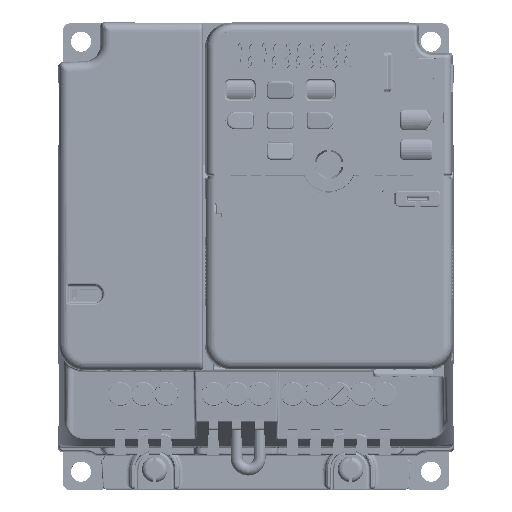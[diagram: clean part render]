
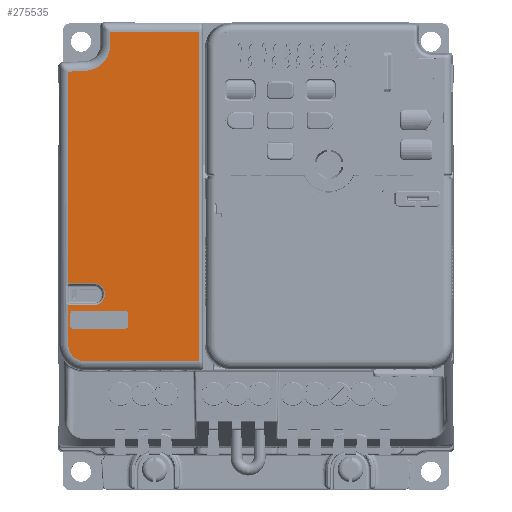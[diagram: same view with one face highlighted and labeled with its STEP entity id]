
A CAD part, top view. The second image highlights one B-rep face of the part: STEP entity #275535.
In plain terms, the highlighted planar face has unit normal (0, 0, 1).
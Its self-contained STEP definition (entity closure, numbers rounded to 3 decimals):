
#222149=DIRECTION('',(1.,0.,0.));
#222150=VECTOR('',#222149,31.378);
#222151=CARTESIAN_POINT('',(-47.,35.1,70.8));
#222152=LINE('',#222151,#222150);
#222168=DIRECTION('',(0.999,0.052,0.));
#222169=VECTOR('',#222168,4.873);
#222170=CARTESIAN_POINT('',(-51.5,114.525,70.8));
#222171=LINE('',#222170,#222169);
#222172=CARTESIAN_POINT('',(-47.,121.77,70.8));
#222173=DIRECTION('',(0.,0.,1.));
#222174=DIRECTION('',(0.052,-0.999,0.));
#222175=AXIS2_PLACEMENT_3D('',#222172,#222173,#222174);
#222177=CARTESIAN_POINT('',(-47.,39.6,70.8));
#222178=DIRECTION('',(0.,0.,-1.));
#222179=DIRECTION('',(0.,-1.,0.));
#222180=AXIS2_PLACEMENT_3D('',#222177,#222178,#222179);
#222182=CARTESIAN_POINT('',(-51.5,50.566,
70.8));
#222183=CARTESIAN_POINT('',(-51.453,50.542,
70.8));
#222184=CARTESIAN_POINT('',(-51.356,50.502,
70.8));
#222185=CARTESIAN_POINT('',(-51.201,50.465,
70.8));
#222186=CARTESIAN_POINT('',(-51.097,50.456,
70.8));
#222187=CARTESIAN_POINT('',(-51.044,50.456,
70.8));
#222189=CARTESIAN_POINT('',(-44.5,53.5,70.8));
#222190=DIRECTION('',(0.,0.,1.));
#222191=DIRECTION('',(0.,-1.,0.));
#222192=AXIS2_PLACEMENT_3D('',#222189,#222190,#222191);
#222194=CARTESIAN_POINT('',(-44.5,53.5,70.8));
#222195=DIRECTION('',(0.,0.,1.));
#222196=DIRECTION('',(0.058,0.998,0.));
#222197=AXIS2_PLACEMENT_3D('',#222194,#222195,#222196);
#222199=CARTESIAN_POINT('',(-51.044,56.544,
70.8));
#222200=CARTESIAN_POINT('',(-51.097,56.544,
70.8));
#222201=CARTESIAN_POINT('',(-51.202,56.535,
70.8));
#222202=CARTESIAN_POINT('',(-51.356,56.498,
70.8));
#222203=CARTESIAN_POINT('',(-51.453,56.458,
70.8));
#222204=CARTESIAN_POINT('',(-51.5,56.434,70.8));
#222206=CARTESIAN_POINT('',(-50.,45.,70.8));
#222207=DIRECTION('',(0.,0.,1.));
#222208=DIRECTION('',(-1.,0.,0.));
#222209=AXIS2_PLACEMENT_3D('',#222206,#222207,#222208);
#222211=CARTESIAN_POINT('',(-36.,45.,70.8));
#222212=DIRECTION('',(0.,0.,1.));
#222213=DIRECTION('',(0.,-1.,0.));
#222214=AXIS2_PLACEMENT_3D('',#222211,#222212,#222213);
#222216=CARTESIAN_POINT('',(-36.,48.,70.8));
#222217=DIRECTION('',(0.,0.,1.));
#222218=DIRECTION('',(1.,0.,0.));
#222219=AXIS2_PLACEMENT_3D('',#222216,#222217,#222218);
#222221=CARTESIAN_POINT('',(-50.,48.,70.8));
#222222=DIRECTION('',(0.,0.,1.));
#222223=DIRECTION('',(0.,1.,0.));
#222224=AXIS2_PLACEMENT_3D('',#222221,#222222,#222223);
#222236=CARTESIAN_POINT('',(-51.5,50.566,
70.8));
#222238=DIRECTION('',(0.,-1.,
0.));
#222239=VECTOR('',#222238,10.966);
#222240=CARTESIAN_POINT('',(-51.5,50.566,
70.8));
#222241=LINE('',#222240,#222239);
#222252=CARTESIAN_POINT('',(-51.5,114.525,70.8));
#222254=DIRECTION('',(0.,-1.,0.));
#222255=VECTOR('',#222254,58.091);
#222256=CARTESIAN_POINT('',(-51.5,114.525,70.8));
#222257=LINE('',#222256,#222255);
#222303=DIRECTION('',(1.,0.,0.));
#222304=VECTOR('',#222303,6.544);
#222305=CARTESIAN_POINT('',(-51.044,56.544,
70.8));
#222306=LINE('',#222305,#222304);
#222347=DIRECTION('',(-1.,0.,0.));
#222348=VECTOR('',#222347,6.544);
#222349=CARTESIAN_POINT('',(-44.5,50.456,70.8));
#222350=LINE('',#222349,#222348);
#231303=DIRECTION('',(0.,1.,0.));
#231304=VECTOR('',#231303,90.4);
#231305=CARTESIAN_POINT('',(-15.622,35.1,
70.8));
#231306=LINE('',#231305,#231304);
#231319=DIRECTION('',(-1.,0.,0.));
#231320=VECTOR('',#231319,24.378);
#231321=CARTESIAN_POINT('',(-15.622,125.5,
70.8));
#231322=LINE('',#231321,#231320);
#231338=DIRECTION('',(0.,-1.,0.));
#231339=VECTOR('',#231338,3.73);
#231340=CARTESIAN_POINT('',(-40.,125.5,70.8));
#231341=LINE('',#231340,#231339);
#238498=DIRECTION('',(0.,1.,0.));
#238499=VECTOR('',#238498,3.);
#238500=CARTESIAN_POINT('',(-51.,45.,70.8));
#238501=LINE('',#238500,#238499);
#238854=DIRECTION('',(1.,0.,0.));
#238855=VECTOR('',#238854,14.);
#238856=CARTESIAN_POINT('',(-50.,49.,70.8));
#238857=LINE('',#238856,#238855);
#238866=DIRECTION('',(0.,-1.,0.));
#238867=VECTOR('',#238866,3.);
#238868=CARTESIAN_POINT('',(-35.,48.,70.8));
#238869=LINE('',#238868,#238867);
#238878=DIRECTION('',(-1.,0.,0.));
#238879=VECTOR('',#238878,14.);
#238880=CARTESIAN_POINT('',(-36.,44.,70.8));
#238881=LINE('',#238880,#238879);
#253048=VERTEX_POINT('',#222236);
#253049=CARTESIAN_POINT('',(-51.5,39.6,70.8));
#253050=VERTEX_POINT('',#253049);
#253055=VERTEX_POINT('',#222252);
#253056=CARTESIAN_POINT('',(-51.5,56.434,70.8));
#253057=VERTEX_POINT('',#253056);
#253058=CARTESIAN_POINT('',(-46.634,114.78,70.8));
#253059=VERTEX_POINT('',#253058);
#253060=CARTESIAN_POINT('',(-40.,121.77,70.8));
#253061=VERTEX_POINT('',#253060);
#253062=CARTESIAN_POINT('',(-40.,125.5,70.8));
#253063=VERTEX_POINT('',#253062);
#253064=CARTESIAN_POINT('',(-15.622,125.5,
70.8));
#253065=VERTEX_POINT('',#253064);
#253066=CARTESIAN_POINT('',(-15.622,35.1,
70.8));
#253067=VERTEX_POINT('',#253066);
#253068=CARTESIAN_POINT('',(-47.,35.1,70.8));
#253069=VERTEX_POINT('',#253068);
#253070=VERTEX_POINT('',#222187);
#253071=CARTESIAN_POINT('',(-44.5,50.456,70.8));
#253072=VERTEX_POINT('',#253071);
#253073=CARTESIAN_POINT('',(-44.322,56.539,70.8));
#253074=VERTEX_POINT('',#253073);
#253075=CARTESIAN_POINT('',(-44.5,56.544,70.8));
#253076=VERTEX_POINT('',#253075);
#253077=CARTESIAN_POINT('',(-51.044,56.544,
70.8));
#253078=VERTEX_POINT('',#253077);
#253079=CARTESIAN_POINT('',(-51.,45.,70.8));
#253080=CARTESIAN_POINT('',(-51.,48.,70.8));
#253081=VERTEX_POINT('',#253079);
#253082=VERTEX_POINT('',#253080);
#253083=CARTESIAN_POINT('',(-50.,44.,70.8));
#253084=VERTEX_POINT('',#253083);
#253085=CARTESIAN_POINT('',(-36.,44.,70.8));
#253086=VERTEX_POINT('',#253085);
#253087=CARTESIAN_POINT('',(-35.,45.,70.8));
#253088=VERTEX_POINT('',#253087);
#253089=CARTESIAN_POINT('',(-35.,48.,70.8));
#253090=VERTEX_POINT('',#253089);
#253091=CARTESIAN_POINT('',(-36.,49.,70.8));
#253092=VERTEX_POINT('',#253091);
#253093=CARTESIAN_POINT('',(-50.,49.,70.8));
#253094=VERTEX_POINT('',#253093);
#275482=CARTESIAN_POINT('',(0.,0.,70.8));
#275483=DIRECTION('',(0.,0.,1.));
#275484=DIRECTION('',(1.,0.,0.));
#275485=AXIS2_PLACEMENT_3D('',#275482,#275483,#275484);
#275486=PLANE('',#275485);
#275488=ORIENTED_EDGE('',*,*,#275487,.F.);
#275490=ORIENTED_EDGE('',*,*,#275489,.T.);
#275492=ORIENTED_EDGE('',*,*,#275491,.T.);
#275494=ORIENTED_EDGE('',*,*,#275493,.F.);
#275496=ORIENTED_EDGE('',*,*,#275495,.F.);
#275498=ORIENTED_EDGE('',*,*,#275497,.F.);
#275499=ORIENTED_EDGE('',*,*,#275462,.F.);
#275500=ORIENTED_EDGE('',*,*,#275472,.T.);
#275502=ORIENTED_EDGE('',*,*,#275501,.F.);
#275504=ORIENTED_EDGE('',*,*,#275503,.T.);
#275506=ORIENTED_EDGE('',*,*,#275505,.F.);
#275508=ORIENTED_EDGE('',*,*,#275507,.T.);
#275510=ORIENTED_EDGE('',*,*,#275509,.T.);
#275512=ORIENTED_EDGE('',*,*,#275511,.F.);
#275514=ORIENTED_EDGE('',*,*,#275513,.T.);
#275515=EDGE_LOOP('',(#275488,#275490,#275492,#275494,#275496,#275498,#275499,
#275500,#275502,#275504,#275506,#275508,#275510,#275512,#275514));
#275516=FACE_OUTER_BOUND('',#275515,.F.);
#275518=ORIENTED_EDGE('',*,*,#275517,.F.);
#275520=ORIENTED_EDGE('',*,*,#275519,.T.);
#275522=ORIENTED_EDGE('',*,*,#275521,.F.);
#275524=ORIENTED_EDGE('',*,*,#275523,.T.);
#275526=ORIENTED_EDGE('',*,*,#275525,.F.);
#275528=ORIENTED_EDGE('',*,*,#275527,.T.);
#275530=ORIENTED_EDGE('',*,*,#275529,.F.);
#275532=ORIENTED_EDGE('',*,*,#275531,.T.);
#275533=EDGE_LOOP('',(#275518,#275520,#275522,#275524,#275526,#275528,#275530,
#275532));
#275534=FACE_BOUND('',#275533,.F.);
#275535=ADVANCED_FACE('',(#275516,#275534),#275486,.T.);
#222176=CIRCLE('',#222175,7.);
#222181=CIRCLE('',#222180,4.5);
#222188=B_SPLINE_CURVE_WITH_KNOTS('',3,(#222182,#222183,#222184,#222185,#222186,
#222187),.UNSPECIFIED.,.F.,.F.,(4,1,1,4),(0.,0.333,
0.667,1.),.UNSPECIFIED.);
#222193=CIRCLE('',#222192,3.044);
#222198=CIRCLE('',#222197,3.044);
#222205=B_SPLINE_CURVE_WITH_KNOTS('',3,(#222199,#222200,#222201,#222202,#222203,
#222204),.UNSPECIFIED.,.F.,.F.,(4,1,1,4),(0.,0.333,
0.667,1.),.UNSPECIFIED.);
#222210=CIRCLE('',#222209,1.);
#222215=CIRCLE('',#222214,1.);
#222220=CIRCLE('',#222219,1.);
#222225=CIRCLE('',#222224,1.);
#275462=EDGE_CURVE('',#253069,#253067,#222152,.T.);
#275472=EDGE_CURVE('',#253069,#253050,#222181,.T.);
#275487=EDGE_CURVE('',#253055,#253057,#222257,.T.);
#275489=EDGE_CURVE('',#253055,#253059,#222171,.T.);
#275491=EDGE_CURVE('',#253059,#253061,#222176,.T.);
#275493=EDGE_CURVE('',#253063,#253061,#231341,.T.);
#275495=EDGE_CURVE('',#253065,#253063,#231322,.T.);
#275497=EDGE_CURVE('',#253067,#253065,#231306,.T.);
#275501=EDGE_CURVE('',#253048,#253050,#222241,.T.);
#275503=EDGE_CURVE('',#253048,#253070,#222188,.T.);
#275505=EDGE_CURVE('',#253072,#253070,#222350,.T.);
#275507=EDGE_CURVE('',#253072,#253074,#222193,.T.);
#275509=EDGE_CURVE('',#253074,#253076,#222198,.T.);
#275511=EDGE_CURVE('',#253078,#253076,#222306,.T.);
#275513=EDGE_CURVE('',#253078,#253057,#222205,.T.);
#275517=EDGE_CURVE('',#253081,#253082,#238501,.T.);
#275519=EDGE_CURVE('',#253081,#253084,#222210,.T.);
#275521=EDGE_CURVE('',#253086,#253084,#238881,.T.);
#275523=EDGE_CURVE('',#253086,#253088,#222215,.T.);
#275525=EDGE_CURVE('',#253090,#253088,#238869,.T.);
#275527=EDGE_CURVE('',#253090,#253092,#222220,.T.);
#275529=EDGE_CURVE('',#253094,#253092,#238857,.T.);
#275531=EDGE_CURVE('',#253094,#253082,#222225,.T.);
